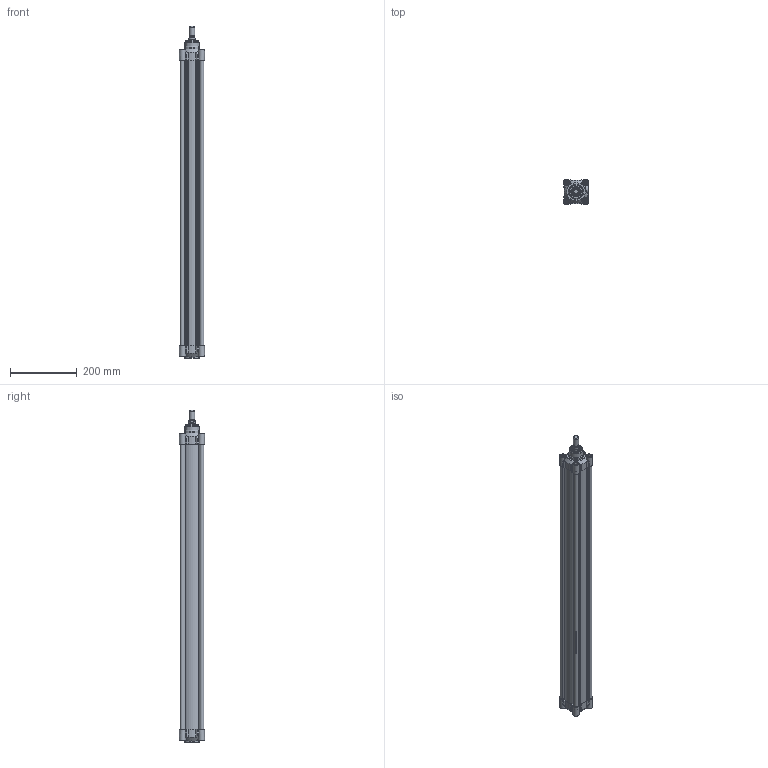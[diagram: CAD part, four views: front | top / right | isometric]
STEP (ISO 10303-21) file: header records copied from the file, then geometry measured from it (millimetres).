
FILE_DESCRIPTION(/* description */ ('CILINDRO D.E. MAGNETICO AMMORTIZZATO ISO 15552'),/* implementation_level */ '2;1');
FILE_NAME(/* name */ 'T:\Archivio Inventor\- 00 NUOVI STP PER SITO CON STELO CHE SI MUOVE\SERIE H - U\SERIE HDM\HDM063 - TUBO NUOVO\HDM063.800.GS.M.stp',/* time_stamp */ '2018-07-30T14:48:59+02:00',/* author */ ('carlo.corazza'),/* organization */ (''),/* preprocessor_version */ 'ST-DEVELOPER v16.5',/* originating_system */ 'Autodesk Inventor 2017',/* authorisation */ '');
FILE_SCHEMA (('AUTOMOTIVE_DESIGN { 1 0 10303 214 3 1 1 }'));
Length unit declared in the file: millimetre
Products named in the file (5): HDM063.800.GS.M; TP; TA; STELO-800; CORPO-800
Assembly tree (4 placements, depth 2):
  HDM063.800.GS.M
    TP
    TA
    STELO-800
    CORPO-800
Bounding box: 75 x 75 x 994 mm (x, y, z)
Volume: 1336028.2 mm3; surface area: 738089.2 mm2
Topology: 4 solids, 27 shells, 1241 faces, 2936 edges, 1818 vertices
Faces by surface type: plane 368, cylinder 297, bspline 288, torus 108, cone 106, sphere 74
Full cylindrical faces by diameter (mm): 3 x2, 3.4 x2, 4.8 x2, 5.25 x2, 6.647 x8, 8 x8, 8.3 x12, 9.8 x4, 9.9 x2, 10 x6, 12 x3, 13 x8, 13.3 x8, 13.5 x1, 14.95 x2, 16 x1, 19.5 x1, 20 x1, 20.8 x1, 20.847 x1, 24 x1, 26 x2, 30 x3, 42 x1, 45 x2, 63 x1
Entity records: 40768 total; most frequent: CARTESIAN_POINT 13071, ORIENTED_EDGE 5326, DIRECTION 5100, EDGE_CURVE 2663, AXIS2_PLACEMENT_3D 2037, VERTEX_POINT 1763, EDGE_LOOP 1576, STYLED_ITEM 1245
